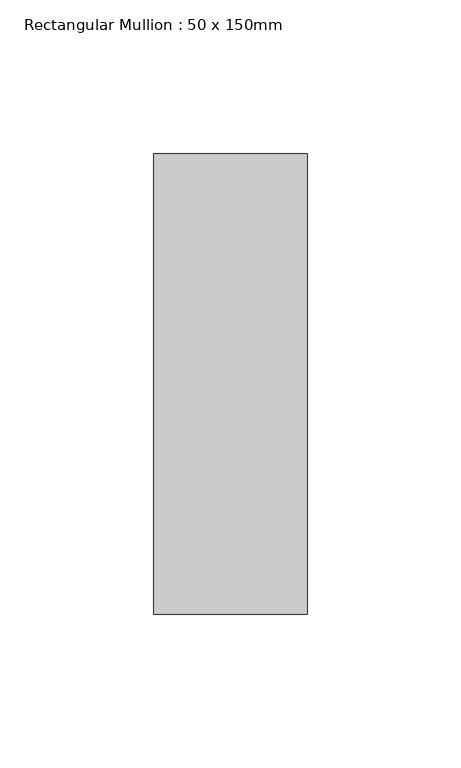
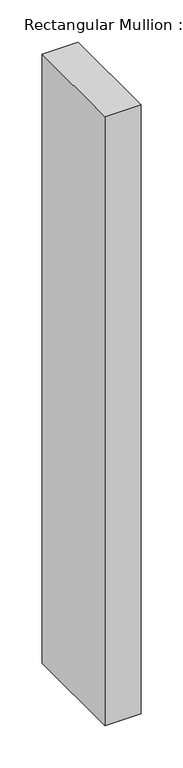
"""IFC4 building model written with IfcOpenShell, lengths in millimetres: member geometry, Rectangular Mullion : 50 x 150mm."""

from ifc_helpers import new_model, si_unit, frame, origin, place, context, project, spatial, polyline, outline, extrude, source, transform, mapped, element, save


def rectangular_mullion_50_x_150mm_b88e030d(model_context):
    return source(origin(), model_context, "Body", "SweptSolid", [
        extrude(outline(polyline([(0.0, 75.0), (0.0, -75.0), (-50.0, -75.0), (-50.0, 75.0), (0.0, 75.0)])), frame((0.0, 0.0, -885.0), z_axis=(0.0, 0.0, 1.0), x_axis=(1.0, 0.0, 0.0)), (0.0, 0.0, 1.0), 885.0),
    ])


if __name__ == "__main__":
    model = new_model("IFC4")
    model_context = context("Model", 3, world=origin())
    ifc_project = project(units=[si_unit("LENGTHUNIT", "METRE", prefix="MILLI")], contexts=[model_context])
    site = spatial("IfcSite", under=ifc_project)
    building = spatial("IfcBuilding", under=site)
    placement = place(None, origin())
    rectangular_mullion_50_x_150mm_shape = rectangular_mullion_50_x_150mm_b88e030d(model_context)
    element("IfcMember", 1, ObjectType="Rectangular Mullion : 50 x 150mm", at=placement, inside=building, context=model_context, shape_type="MappedRepresentation", body=[
        mapped(rectangular_mullion_50_x_150mm_shape, transform((0.0, 0.0, 0.0), x_axis=(1.0, 0.0, 0.0), y_axis=(0.0, 1.0, 0.0), z_axis=(0.0, 0.0, 1.0))),
    ])
    save(model, "model.ifc")
